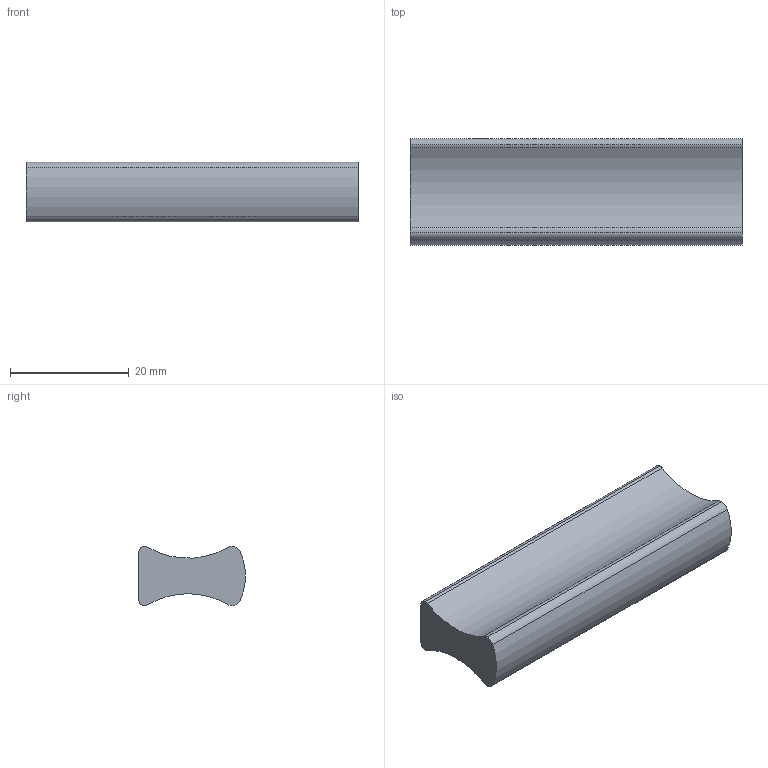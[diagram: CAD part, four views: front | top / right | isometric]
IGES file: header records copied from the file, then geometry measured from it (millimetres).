
Start section: Data from Parasolid IGES Translator 15.0.47, Copyright(c) 2006 Siemens P LM Software. All Rights Reserved.
Global section: file name: 9190436.igs; native system:  By UGS Corp.; preprocessor: XPlus GENERIC/IGES 3.0; author: Noname; organization: Noname; date: 20151216.182206; units: millimetre
Bounding box: 56 x 17.96 x 10 mm (x, y, z)
Surface area: 3498 mm2 (no closed solid volume)
Topology: 0 solids, 0 shells, 17 faces, 78 edges, 76 vertices
Faces by surface type: revolution 12, extrusion 5
